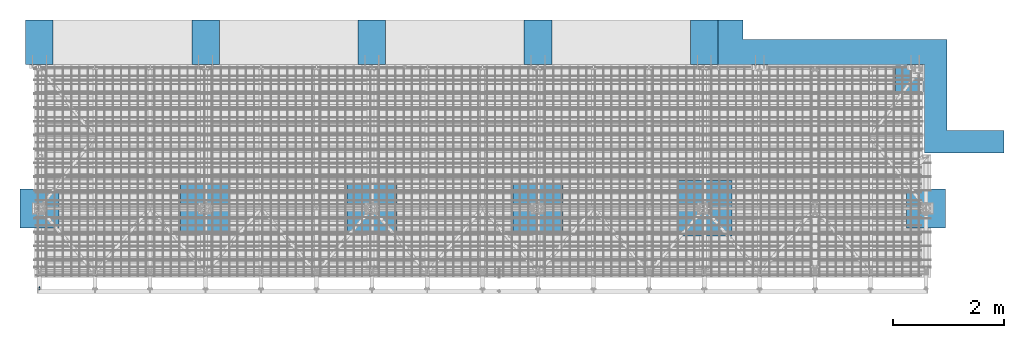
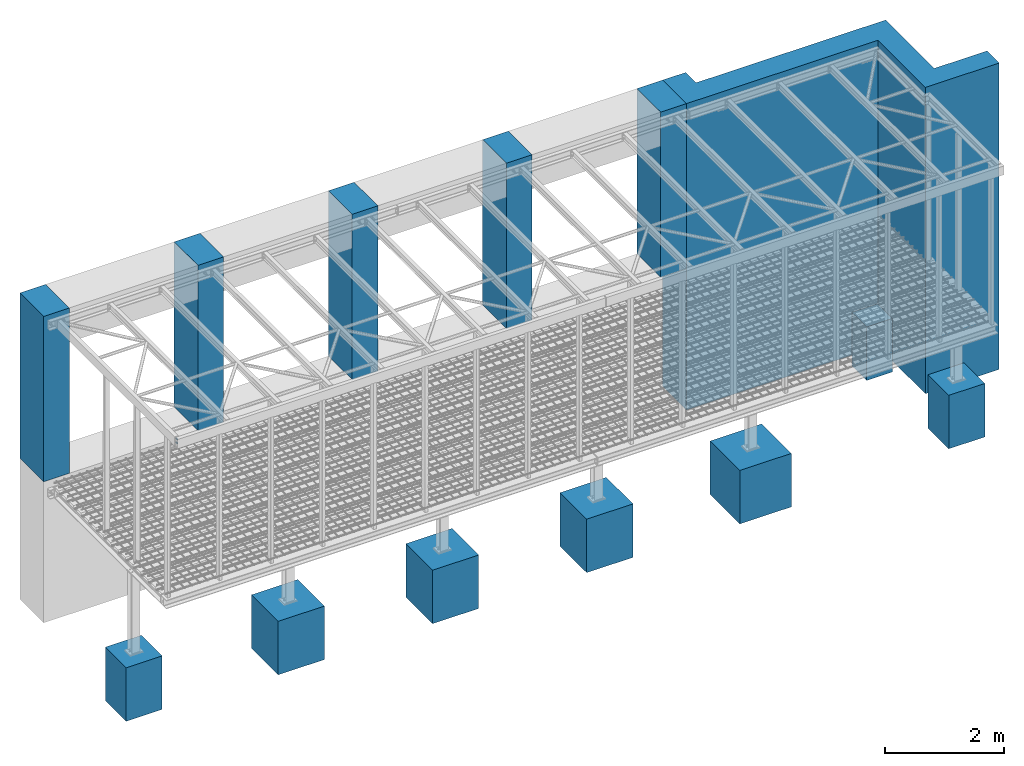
# One storey, part 15 of 26: 13 slabs, 1 mechanical fastener, 14 elements without a shape of their own.
"""IFC2X3 building model written with IfcOpenShell, lengths in millimetres."""

from ifc_helpers import new_model, si_unit, frame, origin_with_axes, origin_2d_with_axis, place, context, subcontext, project, spatial, polyline, circle, outline, extrude, faceted_brep, source, transform, mapped, material, type_object, element, aggregate, save


model = new_model("IFC2X3")

# Units and contexts
model_context = context("Model", 3, precision=1e-05, world=origin_with_axes())
body_context = subcontext(model_context, "Body", "Model", "MODEL_VIEW")
ifc_project = project(units=[si_unit("LENGTHUNIT", "METRE", prefix="MILLI"), si_unit("AREAUNIT", "SQUARE_METRE"), si_unit("VOLUMEUNIT", "CUBIC_METRE"), si_unit("MASSUNIT", "GRAM", prefix="KILO"), si_unit("TIMEUNIT", "SECOND"), si_unit("PLANEANGLEUNIT", "RADIAN"), si_unit("SOLIDANGLEUNIT", "STERADIAN"), si_unit("THERMODYNAMICTEMPERATUREUNIT", "DEGREE_CELSIUS"), si_unit("LUMINOUSINTENSITYUNIT", "LUMEN")], contexts=[model_context])

# Site, building, storey
site_placement = place(None, origin_with_axes())
site = spatial("IfcSite", under=ifc_project, at=site_placement, Name="Undefined", CompositionType="ELEMENT")
building_placement = place(site_placement, origin_with_axes())
building = spatial("IfcBuilding", under=site, at=building_placement, Name="Undefined", CompositionType="ELEMENT")
storey_placement = place(building_placement, origin_with_axes())
storey = spatial("IfcBuildingStorey", under=building, at=storey_placement, Name="Undefined", CompositionType="ELEMENT", Elevation=0.0)

# Assembly, slab
assembly_1_placement = place(storey_placement, origin_with_axes())
assembly_1 = element("IfcElementAssembly", 1, at=assembly_1_placement, inside=storey, AssemblyPlace="NOTDEFINED", PredefinedType="REINFORCEMENT_UNIT")
ifc_material_1 = material(Name="CONCRETE/C20/25")
slab_type_1 = type_object("IfcSlabType", Name="1100*1000", PredefinedType="NOTDEFINED")
slab_1_placement = place(assembly_1_placement, frame((11550.0, 1760.0, -2550.0), z_axis=(1.0, 0.0, 0.0), x_axis=(0.0, -1.0, 0.0)))
slab_1 = element("IfcSlab", 2, at=slab_1_placement, type_object=slab_type_1, material=ifc_material_1, Name="Základ. pätka", ObjectType="1100*1000", PredefinedType="FLOOR", context=body_context, shape_type="Brep", body=[
    faceted_brep([(0.0, -550.0, 0.0), (0.0, -550.0, 1000.0), (0.0, 550.0, 1000.0), (0.0, 550.0, 0.0), (1000.0, -550.0, 1000.0), (1000.0, 550.0, 1000.0), (1000.0, -550.0, 0.0), (1000.0, 550.0, 0.0)], [[[0, 1, 2, 3]], [[1, 4, 5, 2]], [[4, 6, 7, 5]], [[6, 0, 3, 7]], [[5, 7, 3, 2]], [[6, 4, 1, 0]]]),
])
aggregate(assembly_1, [slab_1])

assembly_2_placement = place(storey_placement, origin_with_axes())
assembly_2 = element("IfcElementAssembly", 3, at=assembly_2_placement, inside=storey, AssemblyPlace="NOTDEFINED", PredefinedType="REINFORCEMENT_UNIT")
slab_type_2 = type_object("IfcSlabType", Name="1100*900", PredefinedType="NOTDEFINED")
slab_2_placement = place(assembly_2_placement, frame((8600.0, 1710.0, -2550.0), z_axis=(1.0, 0.0, 0.0), x_axis=(0.0, -1.0, 0.0)))
slab_2 = element("IfcSlab", 4, at=slab_2_placement, type_object=slab_type_2, material=ifc_material_1, Name="Základ. pätka", ObjectType="1100*900", PredefinedType="FLOOR", context=body_context, shape_type="Brep", body=[
    faceted_brep([(0.0, -550.0, 0.0), (0.0, -550.0, 900.0), (0.0, 550.0, 900.0), (0.0, 550.0, 0.0), (900.0, -550.0, 900.0), (900.0, 550.0, 900.0), (900.0, -550.0, 0.0), (900.0, 550.0, 0.0)], [[[0, 1, 2, 3]], [[1, 4, 5, 2]], [[4, 6, 7, 5]], [[6, 0, 3, 7]], [[5, 7, 3, 2]], [[6, 4, 1, 0]]]),
])
aggregate(assembly_2, [slab_2])

assembly_3_placement = place(storey_placement, origin_with_axes())
assembly_3 = element("IfcElementAssembly", 5, at=assembly_3_placement, inside=storey, AssemblyPlace="NOTDEFINED", PredefinedType="REINFORCEMENT_UNIT")
slab_3_placement = place(assembly_3_placement, frame((5600.0, 1710.0, -2550.0), z_axis=(1.0, 0.0, 0.0), x_axis=(0.0, -1.0, 0.0)))
slab_3 = element("IfcSlab", 6, at=slab_3_placement, type_object=slab_type_2, material=ifc_material_1, Name="Základ. pätka", ObjectType="1100*900", PredefinedType="FLOOR", context=body_context, shape_type="Brep", body=[
    faceted_brep([(0.0, -550.0, 0.0), (0.0, -550.0, 900.0), (0.0, 550.0, 900.0), (0.0, 550.0, 0.0), (900.0, -550.0, 900.0), (900.0, 550.0, 900.0), (900.0, -550.0, 0.0), (900.0, 550.0, 0.0)], [[[0, 1, 2, 3]], [[1, 4, 5, 2]], [[4, 6, 7, 5]], [[6, 0, 3, 7]], [[5, 7, 3, 2]], [[6, 4, 1, 0]]]),
])
aggregate(assembly_3, [slab_3])

assembly_4_placement = place(storey_placement, origin_with_axes())
assembly_4 = element("IfcElementAssembly", 7, at=assembly_4_placement, inside=storey, AssemblyPlace="NOTDEFINED", PredefinedType="REINFORCEMENT_UNIT")
slab_4_placement = place(assembly_4_placement, frame((2600.0, 1710.0, -2550.0), z_axis=(1.0, 0.0, 0.0), x_axis=(0.0, -1.0, 0.0)))
slab_4 = element("IfcSlab", 8, at=slab_4_placement, type_object=slab_type_2, material=ifc_material_1, Name="Základ. pätka", ObjectType="1100*900", PredefinedType="FLOOR", context=body_context, shape_type="Brep", body=[
    faceted_brep([(0.0, -550.0, 0.0), (0.0, -550.0, 900.0), (0.0, 550.0, 900.0), (0.0, 550.0, 0.0), (900.0, -550.0, 900.0), (900.0, 550.0, 900.0), (900.0, -550.0, 0.0), (900.0, 550.0, 0.0)], [[[0, 1, 2, 3]], [[1, 4, 5, 2]], [[4, 6, 7, 5]], [[6, 0, 3, 7]], [[5, 7, 3, 2]], [[6, 4, 1, 0]]]),
])
aggregate(assembly_4, [slab_4])

assembly_5_placement = place(storey_placement, origin_with_axes())
assembly_5 = element("IfcElementAssembly", 9, at=assembly_5_placement, inside=storey, AssemblyPlace="NOTDEFINED", PredefinedType="REINFORCEMENT_UNIT")
slab_type_3 = type_object("IfcSlabType", Name="1100*500", PredefinedType="NOTDEFINED")
slab_5_placement = place(assembly_5_placement, frame((15505.0, 3840.0, -2550.0), z_axis=(1.0, 0.0, 0.0), x_axis=(0.0, -1.0, 0.0)))
slab_5 = element("IfcSlab", 10, at=slab_5_placement, type_object=slab_type_3, material=ifc_material_1, Name="Základ. pätka", ObjectType="1100*500", PredefinedType="FLOOR", context=body_context, shape_type="Brep", body=[
    faceted_brep([(0.0, -550.0, 0.0), (0.0, -550.0, 500.0), (0.0, 550.0, 500.0), (0.0, 550.0, 0.0), (500.0, -550.0, 500.0), (500.0, 550.0, 500.0), (500.0, -550.0, 0.0), (500.0, 550.0, 0.0)], [[[0, 1, 2, 3]], [[1, 4, 5, 2]], [[4, 6, 7, 5]], [[6, 0, 3, 7]], [[5, 7, 3, 2]], [[6, 4, 1, 0]]]),
])
aggregate(assembly_5, [slab_5])

assembly_6_placement = place(storey_placement, origin_with_axes())
assembly_6 = element("IfcElementAssembly", 11, at=assembly_6_placement, inside=storey, AssemblyPlace="NOTDEFINED", PredefinedType="REINFORCEMENT_UNIT")
ifc_material_2 = material(Name="CONCRETE/C45/55")
slab_type_4 = type_object("IfcSlabType", Name="3400*500", PredefinedType="NOTDEFINED")
slab_6_placement = place(assembly_6_placement, frame((3300.0, 3860.0, 1700.0), z_axis=(-1.0, 0.0, 0.0), x_axis=(0.0, 1.0, 0.0)))
slab_6 = element("IfcSlab", 12, at=slab_6_placement, type_object=slab_type_4, material=ifc_material_2, Name="Stena", ObjectType="3400*500", PredefinedType="FLOOR", context=body_context, shape_type="Brep", body=[
    faceted_brep([(0.0, -1700.0, 0.0), (0.0, -1700.0, 500.0), (0.0, 1700.0, 500.0), (0.0, 1700.0, 0.0), (800.0, -1700.0, 500.0), (800.0, 1700.0, 500.0), (800.0, -1700.0, 0.0), (800.0, 1700.0, 0.0)], [[[0, 1, 2, 3]], [[1, 4, 5, 2]], [[4, 6, 7, 5]], [[6, 0, 3, 7]], [[5, 7, 3, 2]], [[6, 4, 1, 0]]]),
])
aggregate(assembly_6, [slab_6])

assembly_7_placement = place(storey_placement, origin_with_axes())
assembly_7 = element("IfcElementAssembly", 13, at=assembly_7_placement, inside=storey, Name="CONCRETE_SLAB", AssemblyPlace="NOTDEFINED", PredefinedType="REINFORCEMENT_UNIT")
slab_7_placement = place(assembly_7_placement, frame((12300.0, 3860.0, 1700.0), z_axis=(-1.0, 0.0, 0.0), x_axis=(0.0, 1.0, 0.0)))
slab_7 = element("IfcSlab", 14, at=slab_7_placement, type_object=slab_type_4, material=ifc_material_2, Name="CONCRETE_SLAB", ObjectType="3400*500", PredefinedType="FLOOR", context=body_context, shape_type="Brep", body=[
    faceted_brep([(0.0, -1700.0, 0.0), (0.0, -1700.0, 500.0), (0.0, 1700.0, 500.0), (0.0, 1700.0, 0.0), (800.0, -1700.0, 500.0), (800.0, 1700.0, 500.0), (800.0, -1700.0, 0.0), (800.0, 1700.0, 0.0)], [[[0, 1, 2, 3]], [[1, 4, 5, 2]], [[4, 6, 7, 5]], [[6, 0, 3, 7]], [[5, 7, 3, 2]], [[6, 4, 1, 0]]]),
])
aggregate(assembly_7, [slab_7])

assembly_8_placement = place(storey_placement, origin_with_axes())
assembly_8 = element("IfcElementAssembly", 15, at=assembly_8_placement, inside=storey, Name="CONCRETE_SLAB", AssemblyPlace="NOTDEFINED", PredefinedType="REINFORCEMENT_UNIT")
slab_8_placement = place(assembly_8_placement, frame((9300.0, 3860.0, 1700.0), z_axis=(-1.0, 0.0, 0.0), x_axis=(0.0, 1.0, 0.0)))
slab_8 = element("IfcSlab", 16, at=slab_8_placement, type_object=slab_type_4, material=ifc_material_2, Name="Stena", ObjectType="3400*500", PredefinedType="FLOOR", context=body_context, shape_type="Brep", body=[
    faceted_brep([(0.0, -1700.0, 0.0), (0.0, -1700.0, 500.0), (0.0, 1700.0, 500.0), (0.0, 1700.0, 0.0), (800.0, -1700.0, 500.0), (800.0, 1700.0, 500.0), (800.0, -1700.0, 0.0), (800.0, 1700.0, 0.0)], [[[0, 1, 2, 3]], [[1, 4, 5, 2]], [[4, 6, 7, 5]], [[6, 0, 3, 7]], [[5, 7, 3, 2]], [[6, 4, 1, 0]]]),
])
aggregate(assembly_8, [slab_8])

assembly_9_placement = place(storey_placement, origin_with_axes())
assembly_9 = element("IfcElementAssembly", 17, at=assembly_9_placement, inside=storey, Name="CONCRETE_SLAB", AssemblyPlace="NOTDEFINED", PredefinedType="REINFORCEMENT_UNIT")
slab_9_placement = place(assembly_9_placement, frame((6300.0, 3860.0, 1700.0), z_axis=(-1.0, 0.0, 0.0), x_axis=(0.0, 1.0, 0.0)))
slab_9 = element("IfcSlab", 18, at=slab_9_placement, type_object=slab_type_4, material=ifc_material_2, Name="Stena", ObjectType="3400*500", PredefinedType="FLOOR", context=body_context, shape_type="Brep", body=[
    faceted_brep([(0.0, -1700.0, 0.0), (0.0, -1700.0, 500.0), (0.0, 1700.0, 500.0), (0.0, 1700.0, 0.0), (800.0, -1700.0, 500.0), (800.0, 1700.0, 500.0), (800.0, -1700.0, 0.0), (800.0, 1700.0, 0.0)], [[[0, 1, 2, 3]], [[1, 4, 5, 2]], [[4, 6, 7, 5]], [[6, 0, 3, 7]], [[5, 7, 3, 2]], [[6, 4, 1, 0]]]),
])
aggregate(assembly_9, [slab_9])

assembly_10_placement = place(storey_placement, origin_with_axes())
assembly_10 = element("IfcElementAssembly", 19, at=assembly_10_placement, inside=storey, Name="CONCRETE_SLAB", AssemblyPlace="NOTDEFINED", PredefinedType="REINFORCEMENT_UNIT")
slab_10_placement = place(assembly_10_placement, frame((300.0, 3860.0, 1700.0), z_axis=(-1.0, 0.0, 0.0), x_axis=(0.0, 1.0, 0.0)))
slab_10 = element("IfcSlab", 20, at=slab_10_placement, type_object=slab_type_4, material=ifc_material_2, Name="Stena", ObjectType="3400*500", PredefinedType="FLOOR", context=body_context, shape_type="Brep", body=[
    faceted_brep([(0.0, -1700.0, 0.0), (0.0, -1700.0, 500.0), (0.0, 1700.0, 500.0), (0.0, 1700.0, 0.0), (800.0, -1700.0, 500.0), (800.0, 1700.0, 500.0), (800.0, -1700.0, 0.0), (800.0, 1700.0, 0.0)], [[[0, 1, 2, 3]], [[1, 4, 5, 2]], [[4, 6, 7, 5]], [[6, 0, 3, 7]], [[5, 7, 3, 2]], [[6, 4, 1, 0]]]),
])
aggregate(assembly_10, [slab_10])

assembly_11_placement = place(storey_placement, origin_with_axes())
assembly_11 = element("IfcElementAssembly", 21, at=assembly_11_placement, inside=storey, AssemblyPlace="NOTDEFINED", PredefinedType="REINFORCEMENT_UNIT")
slab_type_5 = type_object("IfcSlabType", Name="1100*700", PredefinedType="NOTDEFINED")
slab_11_placement = place(assembly_11_placement, frame((15700.0, 1610.0, -2550.0), z_axis=(1.0, 0.0, 0.0), x_axis=(0.0, -1.0, 0.0)))
slab_11 = element("IfcSlab", 22, at=slab_11_placement, type_object=slab_type_5, material=ifc_material_1, Name="Základ. pätka", ObjectType="1100*700", PredefinedType="FLOOR", context=body_context, shape_type="Brep", body=[
    faceted_brep([(0.0, -550.0, 0.0), (0.0, -550.0, 700.0), (0.0, 550.0, 700.0), (0.0, 550.0, 0.0), (700.0, -550.0, 700.0), (700.0, 550.0, 700.0), (700.0, -550.0, 0.0), (700.0, 550.0, 0.0)], [[[0, 1, 2, 3]], [[1, 4, 5, 2]], [[4, 6, 7, 5]], [[6, 0, 3, 7]], [[5, 7, 3, 2]], [[6, 4, 1, 0]]]),
])
aggregate(assembly_11, [slab_11])

assembly_12_placement = place(storey_placement, origin_with_axes())
assembly_12 = element("IfcElementAssembly", 23, at=assembly_12_placement, inside=storey, Name="CONCRETE_SLAB", AssemblyPlace="NOTDEFINED", PredefinedType="REINFORCEMENT_UNIT")
slab_12_placement = place(assembly_12_placement, frame((-300.0, 1610.0, -2550.0), z_axis=(1.0, 0.0, 0.0), x_axis=(0.0, -1.0, 0.0)))
slab_12 = element("IfcSlab", 24, at=slab_12_placement, type_object=slab_type_5, material=ifc_material_1, Name="Základ. pätka", ObjectType="1100*700", PredefinedType="FLOOR", context=body_context, shape_type="Brep", body=[
    faceted_brep([(0.0, -550.0, 0.0), (0.0, -550.0, 700.0), (0.0, 550.0, 700.0), (0.0, 550.0, 0.0), (700.0, -550.0, 700.0), (700.0, 550.0, 700.0), (700.0, -550.0, 0.0), (700.0, 550.0, 0.0)], [[[0, 1, 2, 3]], [[1, 4, 5, 2]], [[4, 6, 7, 5]], [[6, 0, 3, 7]], [[5, 7, 3, 2]], [[6, 4, 1, 0]]]),
])
aggregate(assembly_12, [slab_12])

assembly_13_placement = place(storey_placement, origin_with_axes())
assembly_13 = element("IfcElementAssembly", 25, at=assembly_13_placement, inside=storey, AssemblyPlace="NOTDEFINED", PredefinedType="REINFORCEMENT_UNIT")
slab_type_6 = type_object("IfcSlabType", Name="6300*2400", PredefinedType="NOTDEFINED")
slab_13_placement = place(assembly_13_placement, frame((12750.0, 4660.0, 250.0), z_axis=(0.0, -1.0, 0.0), x_axis=(-1.0, 0.0, 0.0)))
slab_13 = element("IfcSlab", 26, at=slab_13_placement, type_object=slab_type_6, material=ifc_material_2, Name="Stena", ObjectType="6300*2400", PredefinedType="FLOOR", context=body_context, shape_type="Brep", body=[
    faceted_brep([(0.0, -3150.0, 0.0), (0.0, -3150.0, 350.0), (0.0, 3150.0, 350.0), (0.0, 3150.0, 0.0), (-3685.0, -3150.0, 350.0), (-3685.0, 3150.0, 350.0), (-3685.0, -3150.0, 1990.0), (-3685.0, 3150.0, 1990.0), (-4710.0, -3150.0, 1990.0), (-4710.0, 3150.0, 1990.0), (-4710.0, -3150.0, 2400.0), (-4710.0, 3150.0, 2400.0), (-3275.0, -3150.0, 2400.0), (-3275.0, 3150.0, 2400.0), (-3275.0, -3150.0, 800.0), (-3275.0, 3150.0, 800.0), (450.0, -3150.0, 800.0), (450.0, 3150.0, 800.0), (450.0, -3150.0, 0.0), (450.0, 3150.0, 0.0)], [[[0, 1, 2, 3]], [[1, 4, 5, 2]], [[4, 6, 7, 5]], [[6, 8, 9, 7]], [[8, 10, 11, 9]], [[10, 12, 13, 11]], [[12, 14, 15, 13]], [[14, 16, 17, 15]], [[16, 18, 19, 17]], [[18, 0, 3, 19]], [[5, 7, 9, 11, 13, 15, 17, 19, 3, 2]], [[18, 16, 14, 12, 10, 8, 6, 4, 1, 0]]]),
])
aggregate(assembly_13, [slab_13])

# Assembly, mechanical fastener
assembly_14_placement = place(storey_placement, origin_with_axes())
assembly_14 = element("IfcElementAssembly", 27, at=assembly_14_placement, inside=storey, Name="Steel Assembly", AssemblyPlace="NOTDEFINED", PredefinedType="RIGID_FRAME")
ifc_material_3 = material(Name="Undefined")
discrete_accessory_type = type_object("IfcDiscreteAccessoryType", Name="Bolt assembly")
shared_shape = source(origin_with_axes(), body_context, "Body", "SweptSolid", [
    extrude(circle(Radius=9.0, at=origin_2d_with_axis()), frame((0.0, -10.1, 0.0), z_axis=(0.0, 1.0, 0.0), x_axis=(1.0, 0.0, 0.0)), (0.0, 0.0, 1.0), 10.1),
    extrude(circle(Radius=9.0, at=origin_2d_with_axis()), frame((0.0, -19.9, 0.0), z_axis=(0.0, 1.0, 0.0), x_axis=(1.0, 0.0, 0.0)), (0.0, 0.0, 1.0), 10.0),
    extrude(outline(polyline([(13.85640646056, 0.0), (6.92820323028, 12.0000000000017), (-6.92820323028, 12.0000000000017), (-13.85640646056, 0.0), (-6.92820323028, -12.0000000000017), (6.92820323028, -12.0000000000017), (13.85640646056, 0.0)])), frame((0.0, -33.0, 0.0), z_axis=(0.0, 1.0, 0.0), x_axis=(1.0, 0.0, 0.0)), (0.0, 0.0, 1.0), 10.0),
    extrude(circle(Radius=8.0, at=origin_2d_with_axis()), frame((0.0, -23.0, 0.0), z_axis=(0.0, 1.0, 0.0), x_axis=(1.0, 0.0, 0.0)), (0.0, 0.0, 1.0), 50.0),
    extrude(circle(Radius=15.0, at=origin_2d_with_axis()), frame((0.0, -23.0, 0.0), z_axis=(0.0, 1.0, 0.0), x_axis=(1.0, 0.0, 0.0)), (0.0, 0.0, 1.0), 3.0),
    extrude(circle(Radius=15.0, at=origin_2d_with_axis()), frame((0.0, 0.0, 0.0), z_axis=(0.0, 1.0, 0.0), x_axis=(1.0, 0.0, 0.0)), (0.0, 0.0, 1.0), 3.0),
    extrude(outline(polyline([(15.4441197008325, 0.0), (7.72205985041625, 13.3750000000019), (-7.72205985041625, 13.3750000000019), (-15.4441197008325, 0.0), (-7.72205985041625, -13.3750000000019), (7.72205985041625, -13.3750000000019), (15.4441197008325, 0.0)])), frame((0.0, 3.0, 0.0), z_axis=(0.0, 1.0, 0.0), x_axis=(1.0, 0.0, 0.0)), (0.0, 0.0, 1.0), 13.0),
])
mechanical_fastener_placement = place(assembly_14_placement, frame((50.0, -180.0, 3210.0), z_axis=(0.0, 0.0, -1.0), x_axis=(-1.0, 0.0, 0.0)))
mechanical_fastener = element("IfcMechanicalFastener", 28, at=mechanical_fastener_placement, type_object=discrete_accessory_type, material=ifc_material_3, Name="Bolt assembly", NominalDiameter=16.0, NominalLength=50.0, context=body_context, shape_type="MappedRepresentation", body=[
    mapped(shared_shape, transform((0.0, 0.0, 40.0))),
    mapped(shared_shape, transform((0.0, 0.0, -40.0))),
])
aggregate(assembly_14, [mechanical_fastener])

save(model, "model.ifc")
